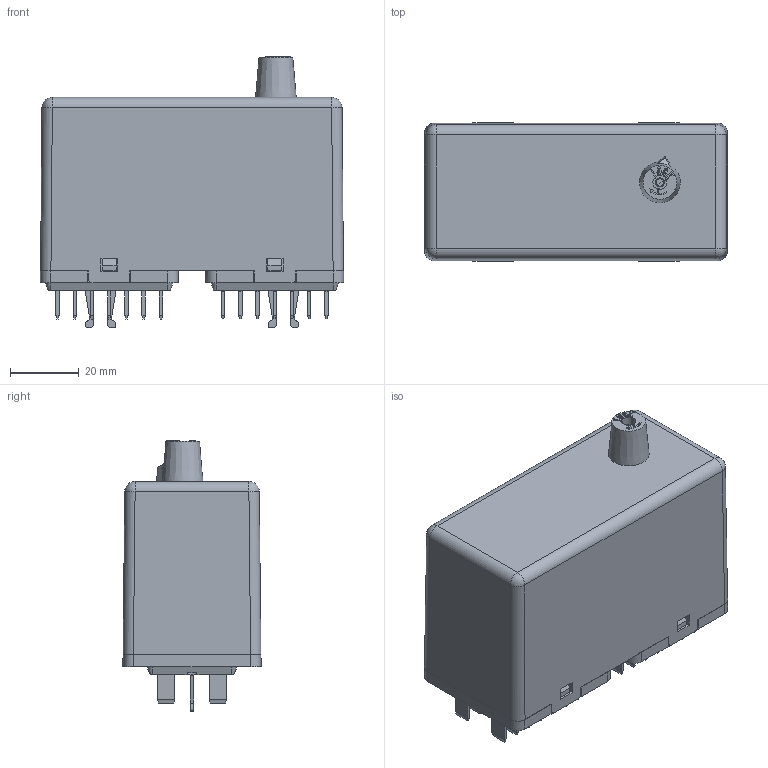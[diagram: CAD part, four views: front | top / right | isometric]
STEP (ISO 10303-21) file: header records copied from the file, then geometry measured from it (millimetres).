
FILE_DESCRIPTION((''),'2;1');
FILE_NAME('I:\TI\Bibliotheek\Inventor\Relais\TDD4B2\TDD4B2 variable.stp','2011-03-09T08:19:48',('oey'),(''),'Autodesk Inventor 2011','Autodesk Inventor 2011','');
FILE_SCHEMA(('AUTOMOTIVE_DESIGN { 1 0 10303 214 1 1 1 1 }'));
Length unit declared in the file: millimetre
Products named in the file (1): TDD4B2 variable
Bounding box: 87.9 x 40.07 x 78.45 mm (x, y, z)
Volume: 49072.1 mm3; surface area: 57183.7 mm2
Topology: 1 solids, 1 shells, 2703 faces, 7930 edges, 5059 vertices
Faces by surface type: plane 1641, cylinder 873, sphere 128, bspline 34, cone 24, torus 3
Full cylindrical faces by diameter (mm): 1.1 x1, 1.6 x14, 1.7 x3, 2 x3, 2.013 x2, 2.2 x1, 2.69 x1, 2.7 x9, 3.242 x1, 3.3 x1, 3.5 x1, 4 x10, 4.5 x1, 4.9 x1, 5 x1, 5.4 x1, 6 x2
Entity records: 91724 total; most frequent: CARTESIAN_POINT 16336, ORIENTED_EDGE 15836, DIRECTION 15464, EDGE_CURVE 7918, VECTOR 5584, LINE 5584, VERTEX_POINT 5026, AXIS2_PLACEMENT_3D 4940
